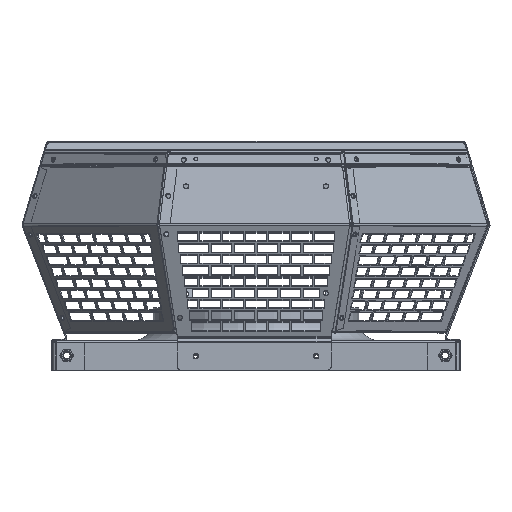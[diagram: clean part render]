
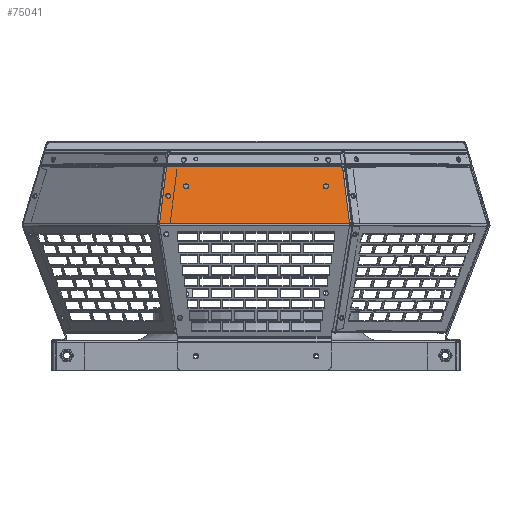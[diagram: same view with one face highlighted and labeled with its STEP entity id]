
A CAD part, top view. The second image highlights one B-rep face of the part: STEP entity #75041.
In plain terms, the highlighted planar face has unit normal (0, 0.288, 0.958).
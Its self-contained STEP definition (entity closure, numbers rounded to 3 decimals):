
#536 = CARTESIAN_POINT ( 'NONE',  ( -58., 33.937, 184.057 ) ) ;
#677 = CARTESIAN_POINT ( 'NONE',  ( -72.723, 21.922, 187.673 ) ) ;
#679 = CARTESIAN_POINT ( 'NONE',  ( -58., 29.915, 185.268 ) ) ;
#2416 = FACE_BOUND ( 'NONE', #61453, .T. ) ;
#2417 = FACE_BOUND ( 'NONE', #62811, .T. ) ;
#2418 = FACE_BOUND ( 'NONE', #61670, .T. ) ;
#2421 = FACE_OUTER_BOUND ( 'NONE', #61087, .T. ) ;
#13905 = LINE ( 'NONE', #81788, #13911 ) ;
#13911 = VECTOR ( 'NONE', #81789, 1000. ) ;
#17336 = ORIENTED_EDGE ( 'NONE', *, *, #81461, .T. ) ;
#17337 = ORIENTED_EDGE ( 'NONE', *, *, #77996, .T. ) ;
#17338 = ORIENTED_EDGE ( 'NONE', *, *, #77134, .T. ) ;
#17339 = ORIENTED_EDGE ( 'NONE', *, *, #80339, .F. ) ;
#17340 = ORIENTED_EDGE ( 'NONE', *, *, #76982, .F. ) ;
#17341 = ORIENTED_EDGE ( 'NONE', *, *, #81425, .T. ) ;
#17342 = ORIENTED_EDGE ( 'NONE', *, *, #77395, .F. ) ;
#17343 = ORIENTED_EDGE ( 'NONE', *, *, #76978, .F. ) ;
#17344 = ORIENTED_EDGE ( 'NONE', *, *, #77256, .F. ) ;
#17345 = ORIENTED_EDGE ( 'NONE', *, *, #77153, .T. ) ;
#18413 = ORIENTED_EDGE ( 'NONE', *, *, #77344, .T. ) ;
#18414 = ORIENTED_EDGE ( 'NONE', *, *, #77337, .F. ) ;
#18415 = ORIENTED_EDGE ( 'NONE', *, *, #77541, .F. ) ;
#20572 = AXIS2_PLACEMENT_3D ( 'NONE', #77505, #77509, #77510 ) ;
#20641 = AXIS2_PLACEMENT_3D ( 'NONE', #77466, #77469, #77473 ) ;
#20665 = AXIS2_PLACEMENT_3D ( 'NONE', #78501, #78505, #78508 ) ;
#20688 = AXIS2_PLACEMENT_3D ( 'NONE', #80716, #80719, #80720 ) ;
#20876 = AXIS2_PLACEMENT_3D ( 'NONE', #81867, #81868, #81869 ) ;
#22063 = AXIS2_PLACEMENT_3D ( 'NONE', #47931, #47932, #47933 ) ;
#22425 = AXIS2_PLACEMENT_3D ( 'NONE', #73920, #73905, #73926 ) ;
#33190 = LINE ( 'NONE', #34474, #33193 ) ;
#33193 = VECTOR ( 'NONE', #34475, 1000. ) ;
#34474 = CARTESIAN_POINT ( 'NONE',  ( 71.296, 47.843, 179.872 ) ) ;
#34475 = DIRECTION ( 'NONE',  ( 1., 0., 0. ) ) ;
#42829 = LINE ( 'NONE', #47657, #42835 ) ;
#42835 = VECTOR ( 'NONE', #47659, 1000. ) ;
#42839 = LINE ( 'NONE', #47665, #42845 ) ;
#42845 = VECTOR ( 'NONE', #47666, 1000. ) ;
#47657 = CARTESIAN_POINT ( 'NONE',  ( 80., 1.075, 193.948 ) ) ;
#47659 = DIRECTION ( 'NONE',  ( -1., 0., 0. ) ) ;
#47665 = CARTESIAN_POINT ( 'NONE',  ( 77.263, -0.025, 194.279 ) ) ;
#47666 = DIRECTION ( 'NONE',  ( 0.119, -0.951, 0.286 ) ) ;
#47897 = CARTESIAN_POINT ( 'NONE',  ( 77.663, 0.808, 194.028 ) ) ;
#47898 = DIRECTION ( 'NONE',  ( -0.119, 0.951, -0.286 ) ) ;
#47931 = CARTESIAN_POINT ( 'NONE',  ( -58., 31.926, 184.663 ) ) ;
#47932 = DIRECTION ( 'NONE',  ( 0., -0.288, -0.958 ) ) ;
#47933 = DIRECTION ( 'NONE',  ( 0., 0.958, -0.288 ) ) ;
#48088 = CARTESIAN_POINT ( 'NONE',  ( 77.6, -0.703, 194.483 ) ) ;
#48092 = DIRECTION ( 'NONE',  ( -0.007, -0.958, 0.288 ) ) ;
#49373 = LINE ( 'NONE', #47897, #49376 ) ;
#49376 = VECTOR ( 'NONE', #47898, 1000. ) ;
#49390 = CIRCLE ( 'NONE', #22063, 2.1 ) ;
#49516 = LINE ( 'NONE', #48088, #49521 ) ;
#49521 = VECTOR ( 'NONE', #48092, 1000. ) ;
#49594 = CIRCLE ( 'NONE', #20641, 2.1 ) ;
#49607 = CIRCLE ( 'NONE', #20572, 2.1 ) ;
#49654 = LINE ( 'NONE', #77725, #49659 ) ;
#49659 = VECTOR ( 'NONE', #77738, 1000. ) ;
#49789 = CIRCLE ( 'NONE', #20665, 2.1 ) ;
#50221 = CIRCLE ( 'NONE', #20688, 2.1 ) ;
#60558 = VERTEX_POINT ( 'NONE', #71476 ) ;
#60583 = VERTEX_POINT ( 'NONE', #71484 ) ;
#60832 = VERTEX_POINT ( 'NONE', #71588 ) ;
#60954 = VERTEX_POINT ( 'NONE', #71759 ) ;
#61087 = EDGE_LOOP ( 'NONE', ( #17338, #17339, #17340, #17341, #17342, #17343, #17344 ) ) ;
#61119 = VERTEX_POINT ( 'NONE', #71969 ) ;
#61430 = VERTEX_POINT ( 'NONE', #72135 ) ;
#61453 = EDGE_LOOP ( 'NONE', ( #18414, #18415 ) ) ;
#61670 = EDGE_LOOP ( 'NONE', ( #17336, #17337 ) ) ;
#61745 = VERTEX_POINT ( 'NONE', #72283 ) ;
#62075 = VERTEX_POINT ( 'NONE', #72380 ) ;
#62769 = VERTEX_POINT ( 'NONE', #72718 ) ;
#62777 = VERTEX_POINT ( 'NONE', #72733 ) ;
#62811 = EDGE_LOOP ( 'NONE', ( #17345, #18413 ) ) ;
#69288 = VERTEX_POINT ( 'NONE', #536 ) ;
#69437 = VERTEX_POINT ( 'NONE', #677 ) ;
#69439 = VERTEX_POINT ( 'NONE', #679 ) ;
#71476 = CARTESIAN_POINT ( 'NONE',  ( -74.117, 48.27, 179.744 ) ) ;
#71484 = CARTESIAN_POINT ( 'NONE',  ( 71.799, 47.843, 179.872 ) ) ;
#71588 = CARTESIAN_POINT ( 'NONE',  ( 71.243, 48.27, 179.744 ) ) ;
#71759 = CARTESIAN_POINT ( 'NONE',  ( 71.296, 47.843, 179.872 ) ) ;
#71969 = CARTESIAN_POINT ( 'NONE',  ( 77.615, 1.194, 193.912 ) ) ;
#72135 = CARTESIAN_POINT ( 'NONE',  ( -80., 1.075, 193.948 ) ) ;
#72283 = CARTESIAN_POINT ( 'NONE',  ( 77.614, 1.075, 193.948 ) ) ;
#72380 = CARTESIAN_POINT ( 'NONE',  ( -72.723, 25.944, 186.463 ) ) ;
#72718 = CARTESIAN_POINT ( 'NONE',  ( 58., 33.937, 184.057 ) ) ;
#72733 = CARTESIAN_POINT ( 'NONE',  ( 58., 29.915, 185.268 ) ) ;
#73905 = DIRECTION ( 'NONE',  ( 0., -0.288, -0.958 ) ) ;
#73920 = CARTESIAN_POINT ( 'NONE',  ( 80., 0.288, 194.185 ) ) ;
#73924 = PLANE ( 'NONE',  #22425 ) ;
#73926 = DIRECTION ( 'NONE',  ( 0., 0.958, -0.288 ) ) ;
#75041 = ADVANCED_FACE ( 'NONE', ( #2418, #2421, #2417, #2416 ), #73924, .F. ) ;
#76978 = EDGE_CURVE ( 'NONE', #61745, #61430, #42829, .T. ) ;
#76982 = EDGE_CURVE ( 'NONE', #60832, #60954, #42839, .T. ) ;
#77134 = EDGE_CURVE ( 'NONE', #61119, #60583, #49373, .T. ) ;
#77153 = EDGE_CURVE ( 'NONE', #69288, #69439, #49390, .T. ) ;
#77256 = EDGE_CURVE ( 'NONE', #61119, #61745, #49516, .T. ) ;
#77337 = EDGE_CURVE ( 'NONE', #62769, #62777, #49594, .T. ) ;
#77344 = EDGE_CURVE ( 'NONE', #69439, #69288, #49607, .T. ) ;
#77395 = EDGE_CURVE ( 'NONE', #61430, #60558, #49654, .T. ) ;
#77466 = CARTESIAN_POINT ( 'NONE',  ( 58., 31.926, 184.663 ) ) ;
#77469 = DIRECTION ( 'NONE',  ( 0., 0.288, 0.958 ) ) ;
#77473 = DIRECTION ( 'NONE',  ( 0., 0.958, -0.288 ) ) ;
#77505 = CARTESIAN_POINT ( 'NONE',  ( -58., 31.926, 184.663 ) ) ;
#77509 = DIRECTION ( 'NONE',  ( 0., -0.288, -0.958 ) ) ;
#77510 = DIRECTION ( 'NONE',  ( 0., 0.958, -0.288 ) ) ;
#77541 = EDGE_CURVE ( 'NONE', #62777, #62769, #49789, .T. ) ;
#77725 = CARTESIAN_POINT ( 'NONE',  ( -74.13, 48.167, 179.775 ) ) ;
#77738 = DIRECTION ( 'NONE',  ( 0.119, 0.951, -0.286 ) ) ;
#77996 = EDGE_CURVE ( 'NONE', #69437, #62075, #50221, .T. ) ;
#78501 = CARTESIAN_POINT ( 'NONE',  ( 58., 31.926, 184.663 ) ) ;
#78505 = DIRECTION ( 'NONE',  ( 0., 0.288, 0.958 ) ) ;
#78508 = DIRECTION ( 'NONE',  ( 0., 0.958, -0.288 ) ) ;
#80339 = EDGE_CURVE ( 'NONE', #60954, #60583, #33190, .T. ) ;
#80716 = CARTESIAN_POINT ( 'NONE',  ( -72.723, 23.933, 187.068 ) ) ;
#80719 = DIRECTION ( 'NONE',  ( 0., -0.288, -0.958 ) ) ;
#80720 = DIRECTION ( 'NONE',  ( 0., 0.958, -0.288 ) ) ;
#81425 = EDGE_CURVE ( 'NONE', #60832, #60558, #13905, .T. ) ;
#81461 = EDGE_CURVE ( 'NONE', #62075, #69437, #85841, .T. ) ;
#81788 = CARTESIAN_POINT ( 'NONE',  ( 80., 48.27, 179.744 ) ) ;
#81789 = DIRECTION ( 'NONE',  ( -1., 0., 0. ) ) ;
#81867 = CARTESIAN_POINT ( 'NONE',  ( -72.723, 23.933, 187.068 ) ) ;
#81868 = DIRECTION ( 'NONE',  ( 0., -0.288, -0.958 ) ) ;
#81869 = DIRECTION ( 'NONE',  ( 0., 0.958, -0.288 ) ) ;
#85841 = CIRCLE ( 'NONE', #20876, 2.1 ) ;
